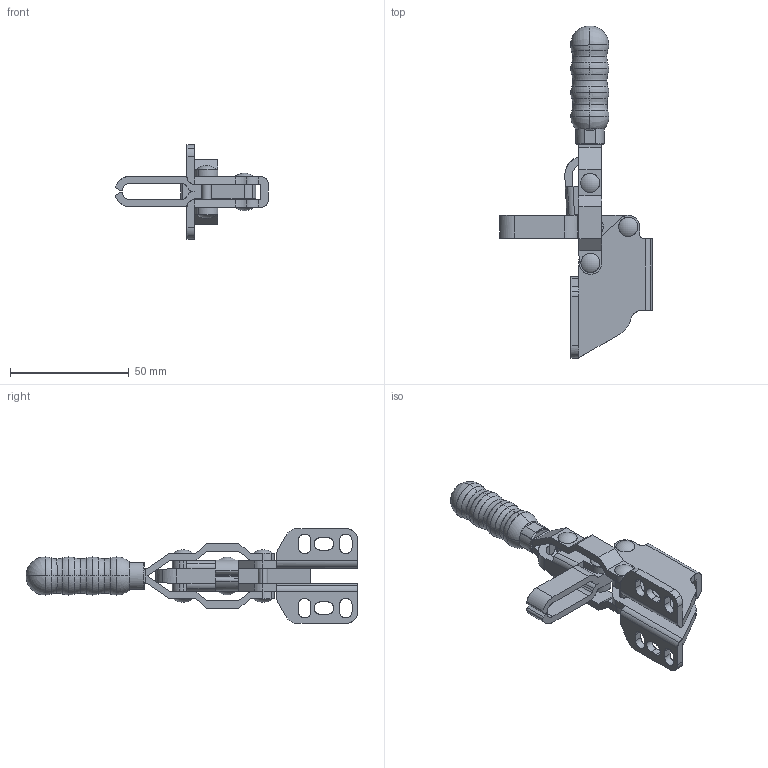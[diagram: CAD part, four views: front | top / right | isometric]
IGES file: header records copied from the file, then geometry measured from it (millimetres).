
Start section: Comment
Global section: file name: 12050sm.igs; native system:  By Spatial Corp.; preprocessor: XPlus PS/IGES 3.0; author: Author; organization: Title; date: 20050216.170239; units: inch
Bounding box: 64.14 x 139.55 x 39.7 mm (x, y, z)
Surface area: 22601.6 mm2 (no closed solid volume)
Topology: 0 solids, 0 shells, 316 faces, 1723 edges, 1672 vertices
Faces by surface type: revolution 198, extrusion 116, bspline 2
